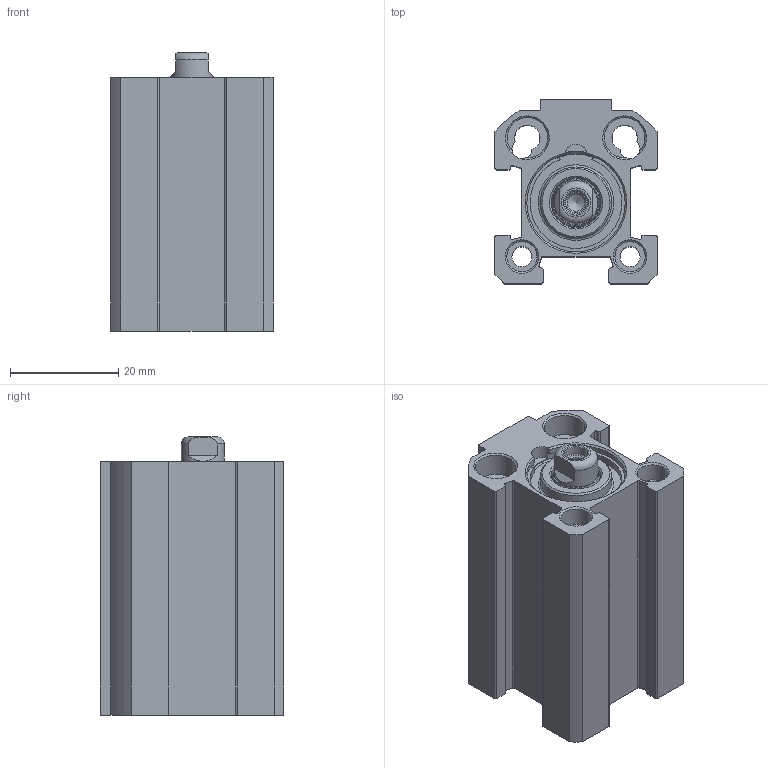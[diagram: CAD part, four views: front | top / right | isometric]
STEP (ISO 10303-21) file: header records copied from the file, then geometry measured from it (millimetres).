
FILE_DESCRIPTION(/* description */ ('Unknown'),/* implementation_level */ '2;1');
FILE_NAME(/* name */ 'FEN 16_15',/* time_stamp */ '2026-06-09T09:08:59+02:00',/* author */ ('Unknown'),/* organization */ ('Unknown'),/* preprocessor_version */ 'ST-DEVELOPER v18.102',/* originating_system */ 'Solid Edge',/* authorisation */ 'Unknown');
FILE_SCHEMA (('AUTOMOTIVE_DESIGN {1 0 10303 214 3 1 1}'));
Length unit declared in the file: millimetre
Products named in the file (5): FEN 16_15; Kit_2; Profilrohr; Kolbenstange; Kit_1
Assembly tree (4 placements, depth 2):
  FEN 16_15
    Kit_2
    Profilrohr
    Kolbenstange
    Kit_1
Bounding box: 30 x 34 x 51.5 mm (x, y, z)
Volume: 29464.6 mm3; surface area: 18001.5 mm2
Topology: 6 solids, 6 shells, 181 faces, 449 edges, 293 vertices
Faces by surface type: plane 75, cylinder 72, cone 27, torus 7
Full cylindrical faces by diameter (mm): 1.3 x2, 3.242 x2, 3.7 x2, 4.134 x4, 4.25 x1, 5.6 x4, 8 x1, 8.42 x1, 9.2 x1, 13.2 x1, 14 x1, 16 x2, 17.9 x4, 19 x2
Entity records: 6301 total; most frequent: CARTESIAN_POINT 1014, DIRECTION 916, ORIENTED_EDGE 756, EDGE_CURVE 378, AXIS2_PLACEMENT_3D 375, VERTEX_POINT 277, FACE_BOUND 265, EDGE_LOOP 264
